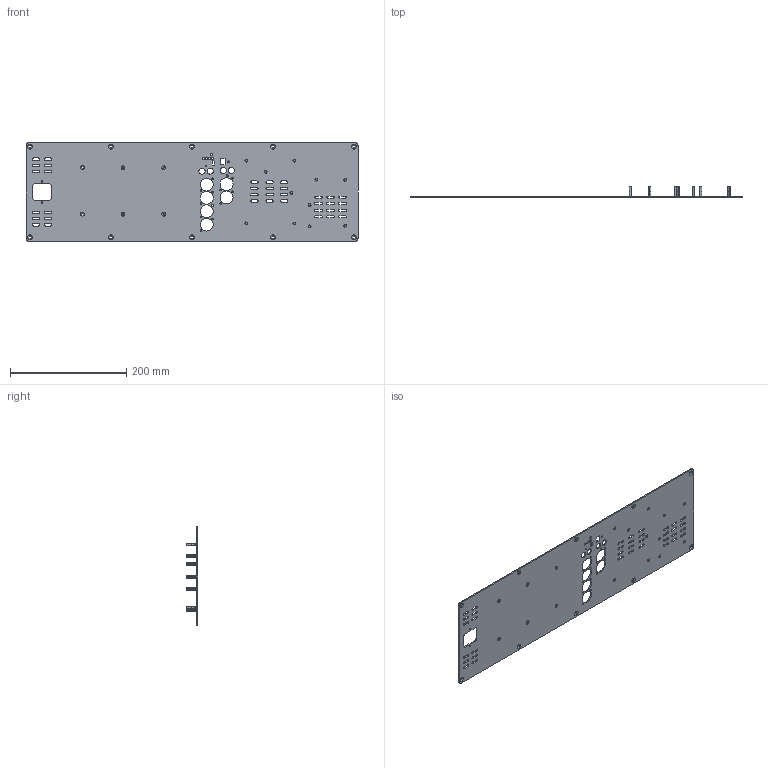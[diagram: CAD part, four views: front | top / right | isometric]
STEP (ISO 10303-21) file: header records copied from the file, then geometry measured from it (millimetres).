
FILE_DESCRIPTION (( 'STEP AP214' ), '1' );
FILE_NAME ('Assembly_AmpPlate_SKmono4.4 (PEMs).STEP', '2025-10-23T21:44:22', ( '' ), ( '' ), 'SwSTEP 2.0', 'SolidWorks 2024', '' );
FILE_SCHEMA (( 'AUTOMOTIVE_DESIGN' ));
Length unit declared in the file: millimetre
Products named in the file (3): AmpPlate_SK_MONO_4.1; Assembly_AmpPlate_SKmono4.4 (PEMs); bso-m3-20zi-pennengineering-3d-12-08-2023-1
Assembly tree (12 placements, depth 2):
  Assembly_AmpPlate_SKmono4.4 (PEMs)
    AmpPlate_SK_MONO_4.1
    bso-m3-20zi-pennengineering-3d-12-08-2023-1  x11
Bounding box: 572 x 20 x 170 mm (x, y, z)
Volume: 184485.1 mm3; surface area: 194838.4 mm2
Topology: 12 solids, 78 shells, 2079 faces, 5463 edges, 3607 vertices
Faces by surface type: plane 1565, cylinder 438, cone 76
Entity records: 16706 total; most frequent: DIRECTION 2925, CARTESIAN_POINT 2834, ORIENTED_EDGE 2782, EDGE_CURVE 1391, AXIS2_PLACEMENT_3D 1024, VERTEX_POINT 917, LINE 877, VECTOR 877
